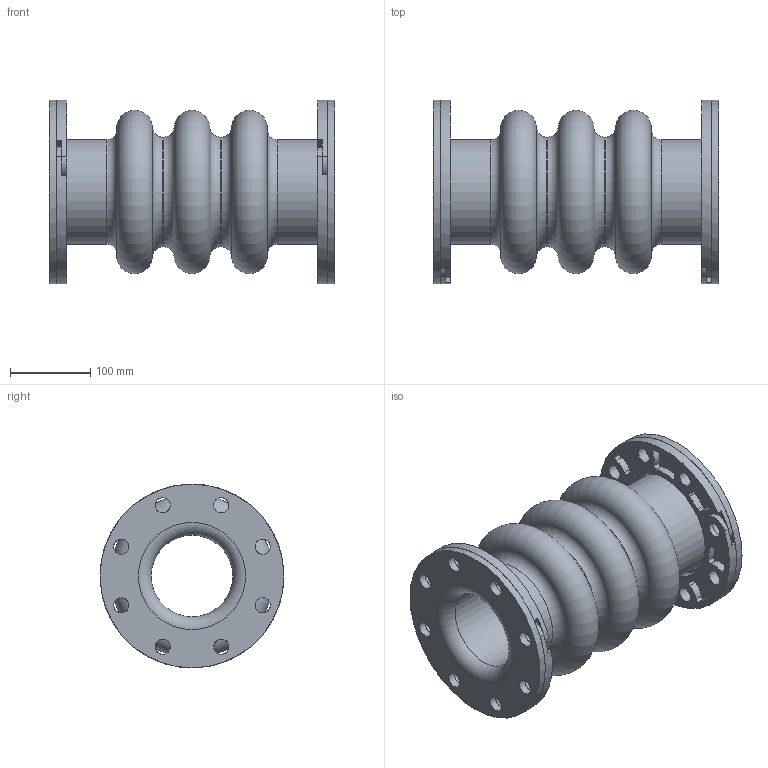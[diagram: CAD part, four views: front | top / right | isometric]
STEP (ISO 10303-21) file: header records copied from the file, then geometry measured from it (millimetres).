
FILE_DESCRIPTION(/* description */ (''),/* implementation_level */ '2;1');
FILE_NAME(/* name */ 'C:\001_Work\Designs\Mercer2014\MQInventor2014\RajR\500 Style\503\New folder\503 4IDx14FF.stp',/* time_stamp */ '2016-03-26T18:10:20-04:00',/* author */ ('rramoutar'),/* organization */ ('Mason Industries Inc.'),/* preprocessor_version */ 'ST-DEVELOPER v15.6',/* originating_system */ 'Autodesk Inventor 2015',/* authorisation */ '');
FILE_SCHEMA (('CONFIG_CONTROL_DESIGN'));
Length unit declared in the file: inch
Products named in the file (1): 503 4IDx14FF
Bounding box: 355.6 x 228.6 x 228.6 mm (x, y, z)
Volume: 4145349.9 mm3; surface area: 725923 mm2
Topology: 3 solids, 3 shells, 302 faces, 776 edges, 494 vertices
Faces by surface type: cylinder 190, plane 76, torus 24, cone 12
Full cylindrical faces by diameter (mm): 19.05 x36, 101.6 x4, 130.175 x2, 136.525 x2, 228.6 x2
Entity records: 9546 total; most frequent: DIRECTION 1736, CARTESIAN_POINT 1689, ORIENTED_EDGE 1388, AXIS2_PLACEMENT_3D 753, EDGE_CURVE 694, VERTEX_POINT 486, EDGE_LOOP 460, CIRCLE 450
